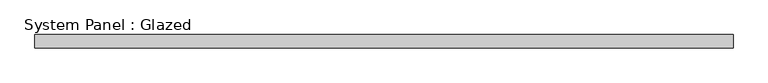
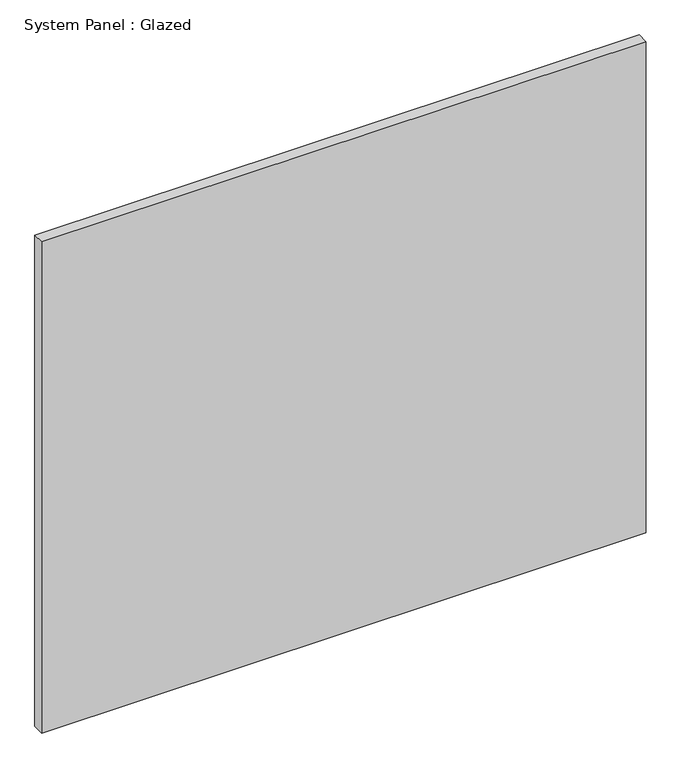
"""IFC4 building model written with IfcOpenShell, lengths in millimetres: plate geometry, System Panel : Glazed."""

from ifc_helpers import new_model, si_unit, origin, origin_with_axes, place, context, project, spatial, polyline, outline, extrude, source, transform, mapped, element, save


def system_panel_glazed_05ba386a(model_context):
    return source(origin(), model_context, "Body", "SweptSolid", [
        extrude(outline(polyline([(655.0000001, -49.5), (-655.0000001, -49.5), (-655.0000001, -24.5), (655.0000001, -24.5), (655.0000001, -49.5)])), origin_with_axes(), (0.0, 0.0, 1.0), 1125.0),
    ])


if __name__ == "__main__":
    model = new_model("IFC4")
    model_context = context("Model", 3, world=origin())
    ifc_project = project(units=[si_unit("LENGTHUNIT", "METRE", prefix="MILLI")], contexts=[model_context])
    site = spatial("IfcSite", under=ifc_project)
    building = spatial("IfcBuilding", under=site)
    placement = place(None, origin())
    system_panel_glazed_shape = system_panel_glazed_05ba386a(model_context)
    element("IfcPlate", 1, ObjectType="System Panel : Glazed", at=placement, inside=building, context=model_context, shape_type="MappedRepresentation", body=[
        mapped(system_panel_glazed_shape, transform((0.0, 0.0, 0.0), x_axis=(1.0, 0.0, 0.0), y_axis=(0.0, 1.0, 0.0), z_axis=(0.0, 0.0, 1.0))),
    ])
    save(model, "model.ifc")
